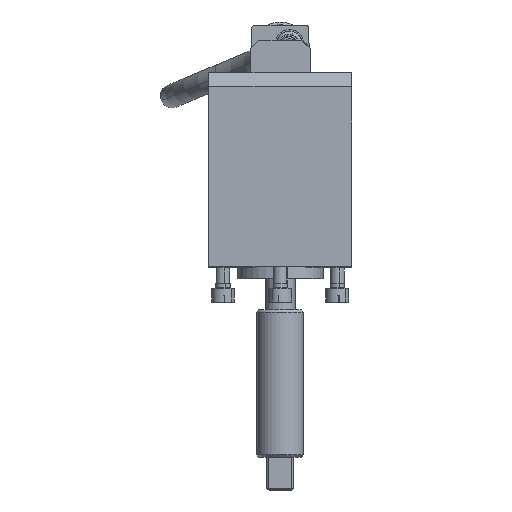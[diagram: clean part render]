
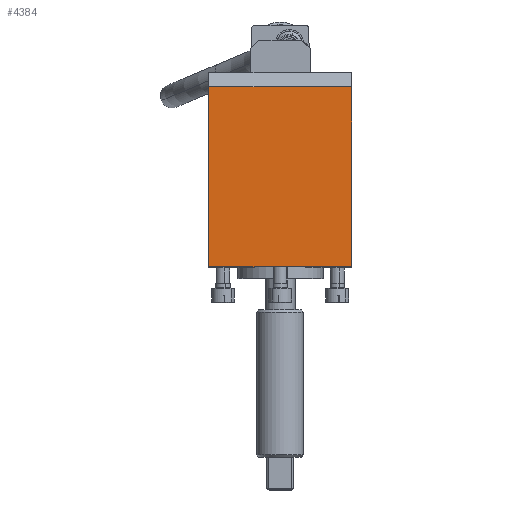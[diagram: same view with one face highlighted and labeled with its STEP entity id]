
A CAD part, top view. The second image highlights one B-rep face of the part: STEP entity #4384.
In plain terms, the highlighted planar face has unit normal (0, 0, 1).
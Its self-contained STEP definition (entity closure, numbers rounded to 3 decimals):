
#4350=AXIS2_PLACEMENT_3D('Plane Axis2P3D',#4347,#4348,#4349) ;
#3753=CARTESIAN_POINT('Line Origine',(0.,-86.,594.6)) ;
#3757=CARTESIAN_POINT('Vertex',(50.,-86.,594.6)) ;
#3759=CARTESIAN_POINT('Vertex',(-50.,-86.,594.6)) ;
#4318=CARTESIAN_POINT('Vertex',(-50.,40.,594.6)) ;
#4321=CARTESIAN_POINT('Line Origine',(0.,40.,594.6)) ;
#4325=CARTESIAN_POINT('Vertex',(50.,40.,594.6)) ;
#4347=CARTESIAN_POINT('Axis2P3D Location',(0.,-59.,594.6)) ;
#4352=CARTESIAN_POINT('Line Origine',(50.,-72.5,594.6)) ;
#4356=CARTESIAN_POINT('Vertex',(50.,-59.,594.6)) ;
#4359=CARTESIAN_POINT('Line Origine',(50.,-9.5,594.6)) ;
#4364=CARTESIAN_POINT('Line Origine',(-50.,-9.5,594.6)) ;
#4368=CARTESIAN_POINT('Vertex',(-50.,-59.,594.6)) ;
#4371=CARTESIAN_POINT('Line Origine',(-50.,-72.5,594.6)) ;
#3754=DIRECTION('Vector Direction',(-1.,0.,0.)) ;
#4322=DIRECTION('Vector Direction',(-1.,0.,0.)) ;
#4348=DIRECTION('Axis2P3D Direction',(0.,0.,1.)) ;
#4349=DIRECTION('Axis2P3D XDirection',(0.,1.,0.)) ;
#4353=DIRECTION('Vector Direction',(0.,-1.,0.)) ;
#4360=DIRECTION('Vector Direction',(0.,1.,0.)) ;
#4365=DIRECTION('Vector Direction',(0.,1.,0.)) ;
#4372=DIRECTION('Vector Direction',(0.,-1.,0.)) ;
#3755=VECTOR('Line Direction',#3754,1.) ;
#4323=VECTOR('Line Direction',#4322,1.) ;
#4354=VECTOR('Line Direction',#4353,1.) ;
#4361=VECTOR('Line Direction',#4360,1.) ;
#4366=VECTOR('Line Direction',#4365,1.) ;
#4373=VECTOR('Line Direction',#4372,1.) ;
#4377=ORIENTED_EDGE('',*,*,#4358,.F.) ;
#4378=ORIENTED_EDGE('',*,*,#4363,.F.) ;
#4379=ORIENTED_EDGE('',*,*,#4327,.T.) ;
#4380=ORIENTED_EDGE('',*,*,#4370,.T.) ;
#4381=ORIENTED_EDGE('',*,*,#4375,.T.) ;
#4382=ORIENTED_EDGE('',*,*,#3761,.F.) ;
#4384=ADVANCED_FACE('AW-350.1\\AW3250.1\\Hauptk\X2\00F6\X0\rper',(#4383),#4351,.T.) ;
#3761=EDGE_CURVE('',#3758,#3760,#3756,.T.) ;
#4327=EDGE_CURVE('',#4326,#4319,#4324,.T.) ;
#4358=EDGE_CURVE('',#4357,#3758,#4355,.T.) ;
#4363=EDGE_CURVE('',#4326,#4357,#4362,.F.) ;
#4370=EDGE_CURVE('',#4319,#4369,#4367,.F.) ;
#4375=EDGE_CURVE('',#4369,#3760,#4374,.T.) ;
#4376=EDGE_LOOP('',(#4377,#4378,#4379,#4380,#4381,#4382)) ;
#4383=FACE_OUTER_BOUND('',#4376,.T.) ;
#3756=LINE('Line',#3753,#3755) ;
#4324=LINE('Line',#4321,#4323) ;
#4355=LINE('Line',#4352,#4354) ;
#4362=LINE('Line',#4359,#4361) ;
#4367=LINE('Line',#4364,#4366) ;
#4374=LINE('Line',#4371,#4373) ;
#4351=PLANE('Plane',#4350) ;
#3758=VERTEX_POINT('',#3757) ;
#3760=VERTEX_POINT('',#3759) ;
#4319=VERTEX_POINT('',#4318) ;
#4326=VERTEX_POINT('',#4325) ;
#4357=VERTEX_POINT('',#4356) ;
#4369=VERTEX_POINT('',#4368) ;
